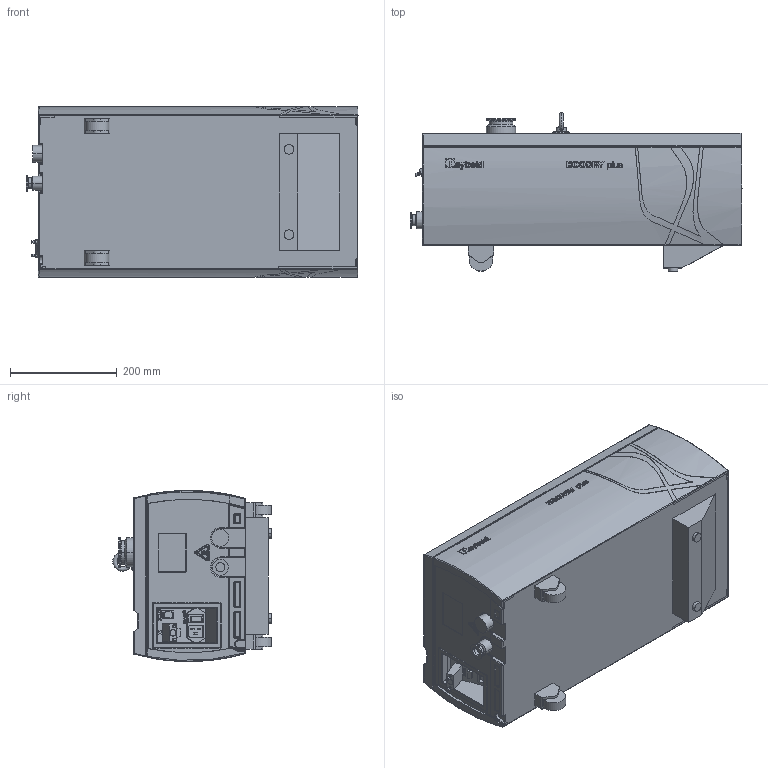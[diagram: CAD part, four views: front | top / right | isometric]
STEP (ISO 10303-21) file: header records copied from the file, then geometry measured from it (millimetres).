
FILE_DESCRIPTION((''),'2;1');
FILE_NAME('853067006_Y06_000','2017-02-01T',('91072'),('Copyright by Leybold GmbH'),'PRO/ENGINEER BY PARAMETRIC TECHNOLOGY CORPORATION, 2015280','PRO/ENGINEER BY PARAMETRIC TECHNOLOGY CORPORATION, 2015280','');
FILE_SCHEMA(('AUTOMOTIVE_DESIGN { 1 0 10303 214 1 1 1 1 }'));
Products named in the file (1): 853067006_Y06_000
Bounding box: 623.3 x 297.5 x 321 mm (x, y, z)
Volume: 39141929.1 mm3; surface area: 819683.3 mm2
Topology: 1 solids, 1 shells, 1454 faces, 3817 edges, 2437 vertices
Faces by surface type: plane 639, cylinder 334, extrusion 216, bspline 108, torus 71, sphere 54, cone 32
Entity records: 72999 total; most frequent: CARTESIAN_POINT 28506, ORIENTED_EDGE 7522, DIRECTION 6196, EDGE_CURVE 3761, VERTEX_POINT 2437, VECTOR 2180, AXIS2_PLACEMENT_3D 2008, LINE 1964
